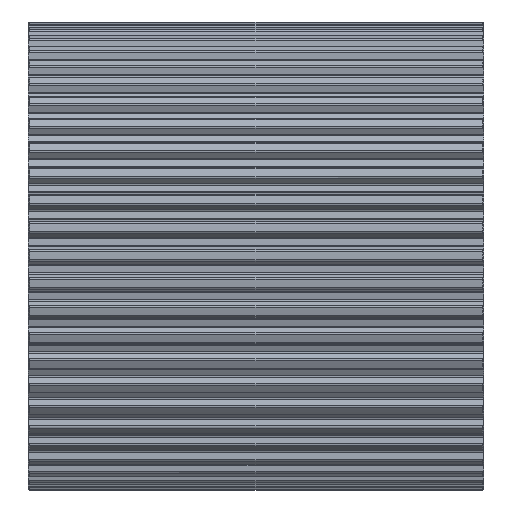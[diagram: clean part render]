
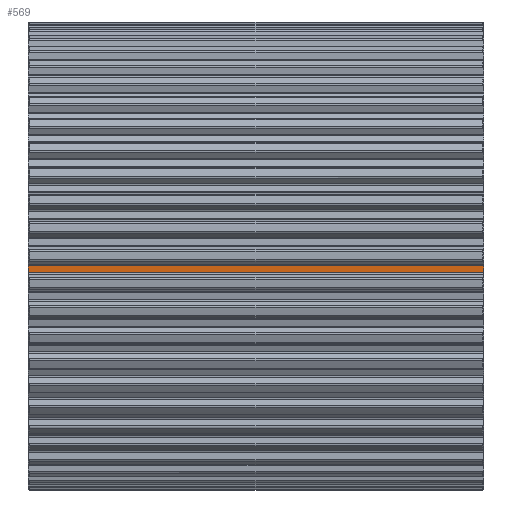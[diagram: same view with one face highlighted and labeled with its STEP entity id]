
A CAD part, top view. The second image highlights one B-rep face of the part: STEP entity #569.
In plain terms, the highlighted cylindrical face has radius 79.343 mm (diameter 158.686 mm), a partial arc.
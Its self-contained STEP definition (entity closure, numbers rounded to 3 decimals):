
#569=ADVANCED_FACE('',(#1603),#1604,.T.);
#1603=FACE_OUTER_BOUND('',#2681,.T.);
#1604=CYLINDRICAL_SURFACE('',#2682,79.343);
#2681=EDGE_LOOP('',(#6956,#6957,#6958,#6959));
#2682=AXIS2_PLACEMENT_3D('',#6960,#6961,#6962);
#6956=ORIENTED_EDGE('',*,*,#8877,.F.);
#6957=ORIENTED_EDGE('',*,*,#9101,.T.);
#6958=ORIENTED_EDGE('',*,*,#9102,.F.);
#6959=ORIENTED_EDGE('',*,*,#9099,.T.);
#6960=CARTESIAN_POINT('',(80.0,0.0,0.0));
#6961=DIRECTION('',(1.0,0.0,0.0));
#6962=DIRECTION('',(0.0,0.0,-1.0));
#8877=EDGE_CURVE('',#11405,#11407,#11408,.T.);
#9099=EDGE_CURVE('',#11728,#11407,#11729,.T.);
#9101=EDGE_CURVE('',#11405,#11731,#11732,.T.);
#9102=EDGE_CURVE('',#11728,#11731,#11733,.T.);
#11405=VERTEX_POINT('',#18346);
#11407=VERTEX_POINT('',#18348);
#11408=CIRCLE('',#18349,79.343);
#11728=VERTEX_POINT('',#18741);
#11729=LINE('',#18742,#18743);
#11731=VERTEX_POINT('',#18745);
#11732=LINE('',#18746,#18747);
#11733=CIRCLE('',#18748,79.343);
#18346=CARTESIAN_POINT('',(160.0,-3.578,79.262));
#18348=CARTESIAN_POINT('',(160.0,-6.002,79.116));
#18349=AXIS2_PLACEMENT_3D('',#20449,#20450,#20451);
#18741=CARTESIAN_POINT('',(0.0,-6.002,79.116));
#18742=CARTESIAN_POINT('',(0.0,-6.002,79.116));
#18743=VECTOR('',#20971,1.0);
#18745=CARTESIAN_POINT('',(0.0,-3.578,79.262));
#18746=CARTESIAN_POINT('',(0.0,-3.578,79.262));
#18747=VECTOR('',#20975,1.0);
#18748=AXIS2_PLACEMENT_3D('',#20976,#20977,#20978);
#20449=CARTESIAN_POINT('',(160.0,0.0,0.0));
#20450=DIRECTION('',(1.0,0.0,0.0));
#20451=DIRECTION('',(0.0,0.0,-1.0));
#20971=DIRECTION('',(1.0,0.,0.));
#20975=DIRECTION('',(-1.0,0.,0.));
#20976=CARTESIAN_POINT('',(0.0,0.0,0.0));
#20977=DIRECTION('',(-1.0,0.0,0.0));
#20978=DIRECTION('',(0.0,0.0,-1.0));
